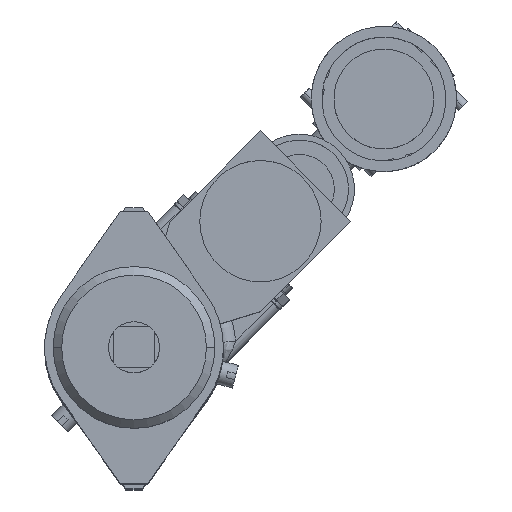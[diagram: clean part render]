
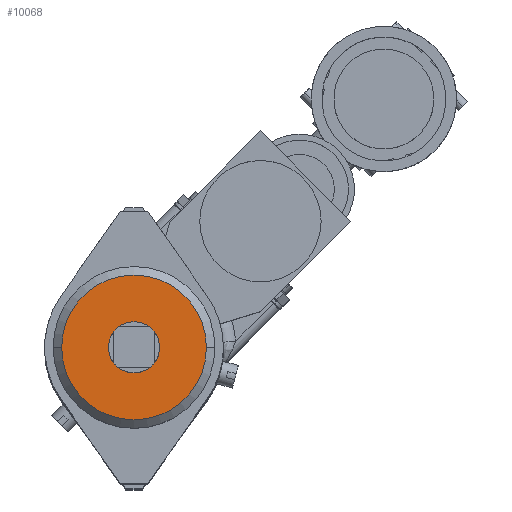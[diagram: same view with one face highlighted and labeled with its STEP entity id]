
A CAD part, top view. The second image highlights one B-rep face of the part: STEP entity #10068.
In plain terms, the highlighted planar face has unit normal (0, 0, 1).
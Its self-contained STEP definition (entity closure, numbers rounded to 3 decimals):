
#8436 = VERTEX_POINT ( 'NONE', #24558 ) ;
#8438 = EDGE_CURVE ( 'NONE', #8436, #8439, #24557, .T. ) ;
#8439 = VERTEX_POINT ( 'NONE', #24552 ) ;
#9167 = EDGE_CURVE ( 'NONE', #9168, #9169, #26047, .T. ) ;
#9168 = VERTEX_POINT ( 'NONE', #26038 ) ;
#9169 = VERTEX_POINT ( 'NONE', #26037 ) ;
#10068 = ADVANCED_FACE ( 'NONE', ( #28235, #28234 ), #28233, .T. ) ;
#10069 = EDGE_LOOP ( 'NONE', ( #10070, #10072 ) ) ;
#10070 = ORIENTED_EDGE ( 'NONE', *, *, #10071, .T. ) ;
#10071 = EDGE_CURVE ( 'NONE', #9169, #9168, #28228, .T. ) ;
#10072 = ORIENTED_EDGE ( 'NONE', *, *, #9167, .T. ) ;
#10073 = EDGE_LOOP ( 'NONE', ( #10074, #10128 ) ) ;
#10074 = ORIENTED_EDGE ( 'NONE', *, *, #10075, .F. ) ;
#10075 = EDGE_CURVE ( 'NONE', #8439, #8436, #28223, .T. ) ;
#10128 = ORIENTED_EDGE ( 'NONE', *, *, #8438, .F. ) ;
#24552 = CARTESIAN_POINT ( 'NONE',  ( 6., 0., 0. ) ) ;
#24553 = DIRECTION ( 'NONE',  ( 1., 0., 0. ) ) ;
#24554 = DIRECTION ( 'NONE',  ( 0., 0., 1. ) ) ;
#24555 = CARTESIAN_POINT ( 'NONE',  ( 0., 0., 0. ) ) ;
#24556 = AXIS2_PLACEMENT_3D ( 'NONE', #24555, #24554, #24553 ) ;
#24557 = CIRCLE ( 'NONE', #24556, 6. ) ;
#24558 = CARTESIAN_POINT ( 'NONE',  ( -6., 0., 0. ) ) ;
#26037 = CARTESIAN_POINT ( 'NONE',  ( -17., 0., 0. ) ) ;
#26038 = CARTESIAN_POINT ( 'NONE',  ( 17., 0., 0. ) ) ;
#26039 = DIRECTION ( 'NONE',  ( 1., 0., 0. ) ) ;
#26040 = DIRECTION ( 'NONE',  ( 0., 0., 1. ) ) ;
#26041 = CARTESIAN_POINT ( 'NONE',  ( 0., 0., 0. ) ) ;
#26042 = AXIS2_PLACEMENT_3D ( 'NONE', #26041, #26040, #26039 ) ;
#26047 = CIRCLE ( 'NONE', #26042, 17. ) ;
#28219 = DIRECTION ( 'NONE',  ( 1., 0., 0. ) ) ;
#28220 = DIRECTION ( 'NONE',  ( 0., 0., 1. ) ) ;
#28221 = CARTESIAN_POINT ( 'NONE',  ( 0., 0., 0. ) ) ;
#28222 = AXIS2_PLACEMENT_3D ( 'NONE', #28221, #28220, #28219 ) ;
#28223 = CIRCLE ( 'NONE', #28222, 6. ) ;
#28224 = DIRECTION ( 'NONE',  ( 1., 0., 0. ) ) ;
#28225 = DIRECTION ( 'NONE',  ( 0., 0., 1. ) ) ;
#28226 = CARTESIAN_POINT ( 'NONE',  ( 0., 0., 0. ) ) ;
#28227 = AXIS2_PLACEMENT_3D ( 'NONE', #28226, #28225, #28224 ) ;
#28228 = CIRCLE ( 'NONE', #28227, 17. ) ;
#28229 = DIRECTION ( 'NONE',  ( 1., 0., 0. ) ) ;
#28230 = DIRECTION ( 'NONE',  ( 0., 0., 1. ) ) ;
#28231 = CARTESIAN_POINT ( 'NONE',  ( 0., 0., 0. ) ) ;
#28232 = AXIS2_PLACEMENT_3D ( 'NONE', #28231, #28230, #28229 ) ;
#28233 = PLANE ( 'NONE',  #28232 ) ;
#28234 = FACE_BOUND ( 'NONE', #10073, .T. ) ;
#28235 = FACE_OUTER_BOUND ( 'NONE', #10069, .T. ) ;
